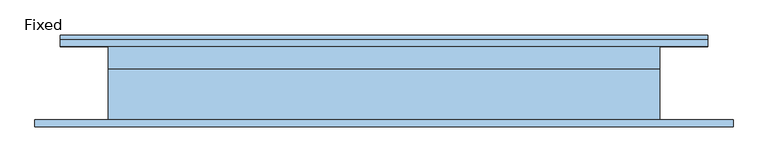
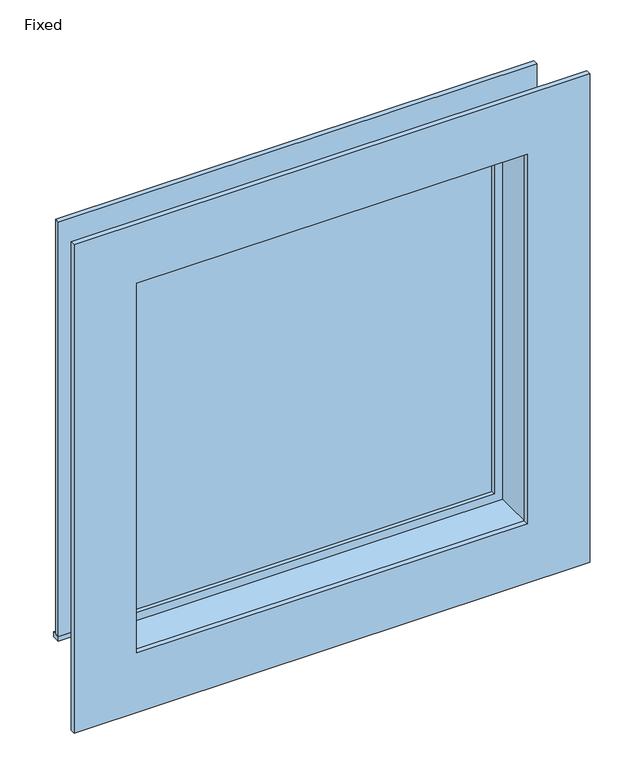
"""IFC4 building model written with IfcOpenShell, lengths in millimetres: window geometry."""

import ifcopenshell
import ifcopenshell.guid

model = None  # the IFC model being written
_history = None  # IfcOwnerHistory: only IFC2X3 demands one
_inside = {}  # id of a spatial element -> (the spatial element, [elements in it])
_under = {}  # id of a project, library or spatial element -> (it, [spatial elements below it])
_declared = {}  # id of a project -> (the project, [libraries it declares])
_typed = {}  # id of a type object -> (the type object, [elements of that type])
_made_of = {}  # id of a material, layer set ... -> (it, [elements and type objects made of it])


def new_model(schema):
    """Start an empty IFC model of exactly this schema.

    Asked for "IFC4X3", IfcOpenShell would pick the latest addendum, in which some entities
    have other attributes; the version numbers below select the first issue.
    IFC2X3 requires an IfcOwnerHistory on every rooted entity: one is made here for all.
    """
    global model, _history
    if schema == "IFC4X3":
        model = ifcopenshell.file(schema_version=(4, 3, 0, 0))
    else:
        model = ifcopenshell.file(schema=schema)
    _inside.clear()
    _under.clear()
    _declared.clear()
    _typed.clear()
    _made_of.clear()
    _history = None
    if model.schema == "IFC2X3":
        org = make("IfcOrganization", Name="unknown")
        user = make(
            "IfcPersonAndOrganization",
            ThePerson=make("IfcPerson", FamilyName="unknown"),
            TheOrganization=org,
        )
        app = make(
            "IfcApplication",
            ApplicationDeveloper=org,
            Version="unknown",
            ApplicationFullName="unknown",
            ApplicationIdentifier="unknown",
        )
        _history = make(
            "IfcOwnerHistory",
            OwningUser=user,
            OwningApplication=app,
            ChangeAction="ADDED",
            CreationDate=0,
        )
    return model


def make(cls, **values):
    """One entity of the class cls with the attributes given. An attribute that is None is left unset."""
    return model.create_entity(
        cls, **{name: value for name, value in values.items() if value is not None}
    )


def rooted(cls, **values):
    """An entity with a GlobalId (a new one), such as an element, a storey or a relation."""
    return make(cls, GlobalId=ifcopenshell.guid.new(), OwnerHistory=_history, **values)


def si_unit(unit_type, name, prefix=None):
    """IfcSIUnit, for example si_unit("LENGTHUNIT", "METRE", prefix="MILLI")."""
    return make("IfcSIUnit", UnitType=unit_type, Prefix=prefix, Name=name)


def assignment(units):
    """IfcUnitAssignment: the units of a project."""
    return None if units is None else make("IfcUnitAssignment", Units=units)


def point(xyz):
    """IfcCartesianPoint."""
    return None if xyz is None else make("IfcCartesianPoint", Coordinates=xyz)


def direction(xyz):
    """IfcDirection."""
    return None if xyz is None else make("IfcDirection", DirectionRatios=xyz)


def frame(location, z_axis=None, x_axis=None):
    """IfcAxis2Placement3D, a coordinate frame: its origin and axes. An axis left out is left unset."""
    return make(
        "IfcAxis2Placement3D",
        Location=point(location),
        Axis=direction(z_axis),
        RefDirection=direction(x_axis),
    )


def origin():
    """The frame at (0, 0, 0) with its axes left unset."""
    return frame((0.0, 0.0, 0.0))


def place(relative_to, where):
    """IfcLocalPlacement: puts the frame where relative to a parent placement (None: the world)."""
    return make(
        "IfcLocalPlacement", PlacementRelTo=relative_to, RelativePlacement=where
    )


def context(
    kind, dimensions, precision=None, world=None, true_north=None, identifier=None
):
    """IfcGeometricRepresentationContext, for example the 3D "Model" context."""
    return make(
        "IfcGeometricRepresentationContext",
        ContextIdentifier=identifier,
        ContextType=kind,
        CoordinateSpaceDimension=dimensions,
        Precision=precision,
        WorldCoordinateSystem=world,
        TrueNorth=true_north,
    )


def project(units=None, contexts=None):
    """IfcProject with its units and contexts."""
    return rooted(
        "IfcProject",
        Name="project",
        RepresentationContexts=contexts,
        UnitsInContext=assignment(units),
    )


def spatial(cls, under=None, at=None, **own):
    """A site, building, storey or space (cls), placed at a placement, below another one or the project."""
    s = rooted(cls, ObjectPlacement=at, **own)
    if under is not None:
        _under.setdefault(under.id(), (under, []))[1].append(s)
    return s


def polyline(points):
    """IfcPolyline through the points."""
    return make("IfcPolyline", Points=[point(p) for p in points])


def outline(outer, holes=None, kind="AREA"):
    """IfcArbitraryClosedProfileDef: a profile drawn as a closed curve; with holes, ...WithVoids."""
    if holes is None:
        return make("IfcArbitraryClosedProfileDef", ProfileType=kind, OuterCurve=outer)
    return make(
        "IfcArbitraryProfileDefWithVoids",
        ProfileType=kind,
        OuterCurve=outer,
        InnerCurves=holes,
    )


def extrude(swept, where, along, depth):
    """IfcExtrudedAreaSolid: the profile swept, set in the frame where, extruded along a direction by depth."""
    return make(
        "IfcExtrudedAreaSolid",
        SweptArea=swept,
        Position=where,
        ExtrudedDirection=direction(along),
        Depth=depth,
    )


def shape(context_of_items, identifier, shape_type, items):
    """IfcShapeRepresentation: the items that make up one representation, for example the "Body"."""
    return make(
        "IfcShapeRepresentation",
        ContextOfItems=context_of_items,
        RepresentationIdentifier=identifier,
        RepresentationType=shape_type,
        Items=items,
    )


def source(mapping_origin, context_of_items, identifier, shape_type, items):
    """IfcRepresentationMap: a shape defined once, which mapped items show again and again."""
    return make(
        "IfcRepresentationMap",
        MappingOrigin=mapping_origin,
        MappedRepresentation=shape(context_of_items, identifier, shape_type, items),
    )


def transform(
    local_origin,
    x_axis=None,
    y_axis=None,
    z_axis=None,
    scale=None,
    scale2=None,
    scale3=None,
    uniform=True,
):
    """IfcCartesianTransformationOperator3D, or its non-uniform kind. x_axis, y_axis, z_axis: its Axis1, 2, 3."""
    if uniform:
        return make(
            "IfcCartesianTransformationOperator3D",
            Axis1=direction(x_axis),
            Axis2=direction(y_axis),
            LocalOrigin=point(local_origin),
            Scale=scale,
            Axis3=direction(z_axis),
        )
    return make(
        "IfcCartesianTransformationOperator3DnonUniform",
        Axis1=direction(x_axis),
        Axis2=direction(y_axis),
        LocalOrigin=point(local_origin),
        Scale=scale,
        Axis3=direction(z_axis),
        Scale2=scale2,
        Scale3=scale3,
    )


def mapped(mapping_source, mapping_target):
    """IfcMappedItem: shows the shape of a source again, moved by a transform."""
    return make(
        "IfcMappedItem", MappingSource=mapping_source, MappingTarget=mapping_target
    )


def made_of(thing, what):
    """Note that an element or type object is made of a material, layer set ...; save() writes the relation."""
    if what is not None:
        _made_of.setdefault(what.id(), (what, []))[1].append(thing)
    return thing


def element(
    cls,
    number,
    at=None,
    inside=None,
    cuts=None,
    type_object=None,
    material=None,
    context=None,
    identifier="Body",
    shape_type=None,
    held_by="IfcProductDefinitionShape",
    body=None,
    shapes=None,
    **own,
):
    """One element of the class cls, such as IfcWall. Its Tag is "e" and its number.

    at: its placement. inside: the storey or other place that contains it. cuts: it is an
    opening in that element (IfcRelVoidsElement). A single representation is given by context,
    identifier, shape_type and body (its items); several are given by shapes. held_by: the class
    of the entity that holds the representations. save() writes the other relations.
    """
    e = rooted(cls, Tag="e%d" % number, ObjectPlacement=at, **own)
    if body is not None:
        shapes = [shape(context, identifier, shape_type, body)]
    if shapes is not None:
        e.Representation = make(held_by, Representations=shapes)
    if inside is not None:
        _inside.setdefault(inside.id(), (inside, []))[1].append(e)
    if cuts is not None:
        rooted(
            "IfcRelVoidsElement", RelatingBuildingElement=cuts, RelatedOpeningElement=e
        )
    if type_object is not None:
        _typed.setdefault(type_object.id(), (type_object, []))[1].append(e)
    return made_of(e, material)


def aggregate(whole, parts):
    """IfcRelAggregates: a whole, such as a stair, and the parts it consists of."""
    return rooted("IfcRelAggregates", RelatingObject=whole, RelatedObjects=parts)


def save(model, path):
    """Write the relations noted so far, then the file.

    IfcRelAggregates (storeys below a building ...), IfcRelContainedInSpatialStructure (elements
    in a storey), IfcRelDefinesByType, IfcRelAssociatesMaterial and IfcRelDeclares: one each for
    every whole, place, type object, material and project.
    """
    for whole, parts in _under.values():
        aggregate(whole, parts)
    for where, things in _inside.values():
        rooted(
            "IfcRelContainedInSpatialStructure",
            RelatedElements=things,
            RelatingStructure=where,
        )
    for kind, things in _typed.values():
        rooted("IfcRelDefinesByType", RelatedObjects=things, RelatingType=kind)
    for what, things in _made_of.values():
        rooted("IfcRelAssociatesMaterial", RelatedObjects=things, RelatingMaterial=what)
    for by, libraries in _declared.values():
        rooted("IfcRelDeclares", RelatingContext=by, RelatedDefinitions=libraries)
    model.write(path)


def fixed_edddcce4(model_context):
    return source(origin(), model_context, "Body", "SweptSolid", [
        extrude(outline(polyline([(-933.45, 133.35), (857.25, 133.35), (857.25, 101.6), (-933.45, 101.6), (-933.45, 133.35)])), frame((0.0, 0.0, 914.4), z_axis=(0.0, 0.0, 1.0), x_axis=(1.0, 0.0, 0.0)), (0.0, 0.0, 1.0), 19.05),
        extrude(outline(polyline([(2419.35, -781.05), (2419.35, 704.85), (933.45, 704.85), (933.45, 857.25), (2571.75, 857.25), (2571.75, -933.45), (933.45, -933.45), (933.45, -781.05), (2419.35, -781.05)])), frame((0.0, 101.6, 0.0), z_axis=(0.0, 1.0, 0.0), x_axis=(0.0, 0.0, 1.0)), (0.0, 0.0, 1.0), 19.05),
        extrude(outline(polyline([(2641.6, 927.1), (2641.6, -1003.3), (711.2, -1003.3), (711.2, 927.1), (2641.6, 927.1)]), holes=[polyline([(2406.65, 692.15), (946.15, 692.15), (946.15, -768.35), (2406.65, -768.35), (2406.65, 692.15)])]), frame((0.0, -120.65, 0.0), z_axis=(0.0, 1.0, 0.0), x_axis=(0.0, 0.0, 1.0)), (0.0, 0.0, 1.0), 19.05),
        extrude(outline(polyline([(660.4, 53.975), (-736.6, 53.975), (-736.6, 66.675), (660.4, 66.675), (660.4, 53.975)])), frame((0.0, 0.0, 977.9), z_axis=(0.0, 0.0, 1.0), x_axis=(1.0, 0.0, 0.0)), (0.0, 0.0, 1.0), 1397.0),
        extrude(outline(polyline([(2419.35, -781.05), (933.45, -781.05), (933.45, 704.85), (2419.35, 704.85), (2419.35, -781.05)]), holes=[polyline([(2374.9, -736.6), (2374.9, 660.4), (977.9, 660.4), (977.9, -736.6), (2374.9, -736.6)])]), frame((0.0, 38.1, 0.0), z_axis=(0.0, 1.0, 0.0), x_axis=(0.0, 0.0, 1.0)), (0.0, 0.0, 1.0), 44.45),
        extrude(outline(polyline([(2438.4, -800.1), (914.4, -800.1), (914.4, 723.9), (2438.4, 723.9), (2438.4, -800.1)]), holes=[polyline([(2406.65, -768.35), (2406.65, 692.15), (946.15, 692.15), (946.15, -768.35), (2406.65, -768.35)])]), frame((0.0, -101.6, 0.0), z_axis=(0.0, 1.0, 0.0), x_axis=(0.0, 0.0, 1.0)), (0.0, 0.0, 1.0), 139.7),
        extrude(outline(polyline([(2438.4, 723.9), (2438.4, -800.1), (914.4, -800.1), (914.4, 723.9), (2438.4, 723.9)]), holes=[polyline([(2419.35, 704.85), (933.45, 704.85), (933.45, -781.05), (2419.35, -781.05), (2419.35, 704.85)])]), frame((0.0, 38.1, 0.0), z_axis=(0.0, 1.0, 0.0), x_axis=(0.0, 0.0, 1.0)), (0.0, 0.0, 1.0), 63.5),
    ])


if __name__ == "__main__":
    model = new_model("IFC4")
    model_context = context("Model", 3, world=origin())
    ifc_project = project(units=[si_unit("LENGTHUNIT", "METRE", prefix="MILLI")], contexts=[model_context])
    site = spatial("IfcSite", under=ifc_project)
    building = spatial("IfcBuilding", under=site)
    placement = place(None, origin())
    fixed_shape = fixed_edddcce4(model_context)
    element("IfcWindow", 1, ObjectType="Fixed : 60\"w x 60\"h", at=placement, inside=building, context=model_context, shape_type="MappedRepresentation", body=[
        mapped(fixed_shape, transform((0.0, 0.0, 0.0), x_axis=(1.0, 0.0, 0.0), y_axis=(0.0, 1.0, 0.0), z_axis=(0.0, 0.0, 1.0))),
    ])
    save(model, "model.ifc")
